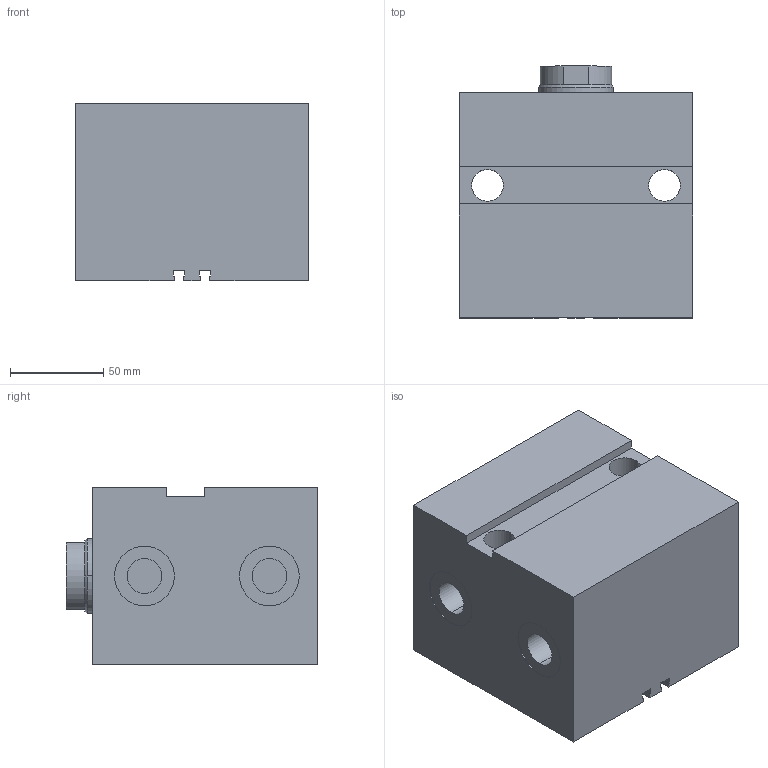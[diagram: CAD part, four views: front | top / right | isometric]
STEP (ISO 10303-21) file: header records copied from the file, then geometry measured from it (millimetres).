
FILE_DESCRIPTION (( 'STEP AP203' ), '1' );
FILE_NAME ('GERMA_Blockzylinder_702-063-030.STEP', '2016-07-26T09:30:34', ( '' ), ( '' ), 'SwSTEP 2.0', 'SolidWorks 2015', '' );
FILE_SCHEMA (( 'CONFIG_CONTROL_DESIGN' ));
Length unit declared in the file: millimetre
Products named in the file (3): Kolben_MT 70x-063_Kolben_MT DU.63-Hub30-IG; GH-700-063_GH-702-063-030; GERMA_Blockzylinder_702-063-030
Assembly tree (2 placements, depth 2):
  GERMA_Blockzylinder_702-063-030
    GH-700-063_GH-702-063-030
    Kolben_MT 70x-063_Kolben_MT DU.63-Hub30-IG
Bounding box: 125 x 135 x 95 mm (x, y, z)
Volume: 1301752 mm3; surface area: 141175.2 mm2
Topology: 2 solids, 2 shells, 92 faces, 214 edges, 134 vertices
Faces by surface type: plane 43, cylinder 35, cone 14
Entity records: 2894 total; most frequent: DIRECTION 483, CARTESIAN_POINT 439, ORIENTED_EDGE 416, EDGE_CURVE 208, AXIS2_PLACEMENT_3D 178, VERTEX_POINT 134, VECTOR 127, LINE 127
